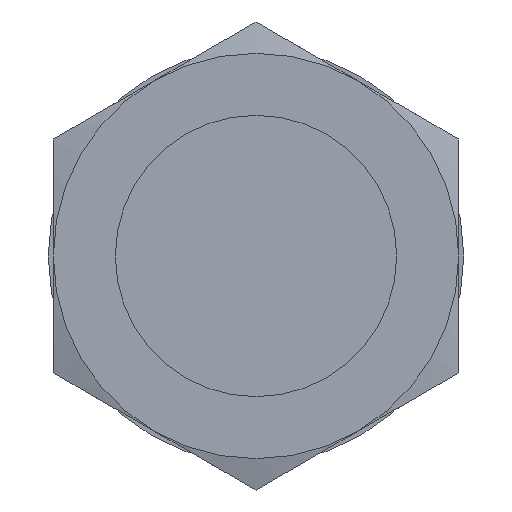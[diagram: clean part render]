
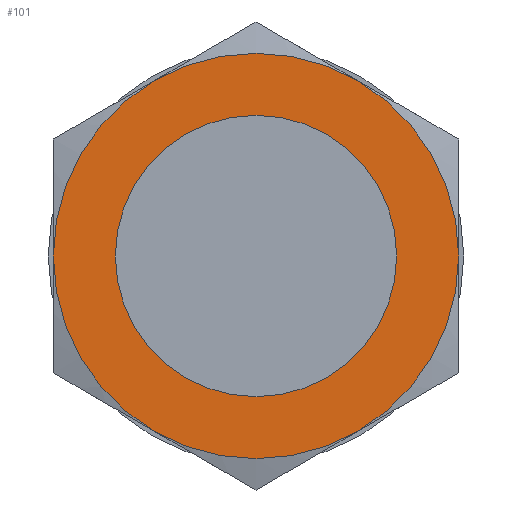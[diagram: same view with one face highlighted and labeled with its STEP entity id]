
A CAD part, front view. The second image highlights one B-rep face of the part: STEP entity #101.
In plain terms, the highlighted planar face has unit normal (0, -1, 0).
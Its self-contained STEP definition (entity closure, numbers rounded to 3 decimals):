
#101 = ADVANCED_FACE( '', ( #165, #166 ), #167, .T. );
#165 = FACE_OUTER_BOUND( '', #244, .T. );
#166 = FACE_BOUND( '', #245, .T. );
#167 = PLANE( '', #246 );
#244 = EDGE_LOOP( '', ( #453, #454, #455, #456, #457, #458 ) );
#245 = EDGE_LOOP( '', ( #459, #460 ) );
#246 = AXIS2_PLACEMENT_3D( '', #461, #462, #463 );
#453 = ORIENTED_EDGE( '', *, *, #590, .F. );
#454 = ORIENTED_EDGE( '', *, *, #591, .F. );
#455 = ORIENTED_EDGE( '', *, *, #592, .F. );
#456 = ORIENTED_EDGE( '', *, *, #593, .F. );
#457 = ORIENTED_EDGE( '', *, *, #594, .F. );
#458 = ORIENTED_EDGE( '', *, *, #595, .F. );
#459 = ORIENTED_EDGE( '', *, *, #559, .T. );
#460 = ORIENTED_EDGE( '', *, *, #600, .T. );
#461 = CARTESIAN_POINT( '', ( 10.166, 5.8, 0. ) );
#462 = DIRECTION( '', ( 0., -1., 0. ) );
#463 = DIRECTION( '', ( -1., 0., 0. ) );
#559 = EDGE_CURVE( '', #655, #659, #661, .T. );
#590 = EDGE_CURVE( '', #698, #690, #712, .T. );
#591 = EDGE_CURVE( '', #706, #698, #713, .T. );
#592 = EDGE_CURVE( '', #663, #706, #714, .T. );
#593 = EDGE_CURVE( '', #685, #663, #715, .T. );
#594 = EDGE_CURVE( '', #675, #685, #716, .T. );
#595 = EDGE_CURVE( '', #690, #675, #717, .T. );
#600 = EDGE_CURVE( '', #659, #655, #722, .T. );
#655 = VERTEX_POINT( '', #787 );
#659 = VERTEX_POINT( '', #792 );
#661 = CIRCLE( '', #795, 8.331 );
#663 = VERTEX_POINT( '', #797 );
#675 = VERTEX_POINT( '', #847 );
#685 = VERTEX_POINT( '', #895 );
#690 = VERTEX_POINT( '', #936 );
#698 = VERTEX_POINT( '', #981 );
#706 = VERTEX_POINT( '', #1026 );
#712 = CIRCLE( '', #1068, 12. );
#713 = CIRCLE( '', #1069, 12. );
#714 = CIRCLE( '', #1070, 12. );
#715 = CIRCLE( '', #1071, 12. );
#716 = CIRCLE( '', #1072, 12. );
#717 = CIRCLE( '', #1073, 12. );
#722 = CIRCLE( '', #1078, 8.331 );
#787 = CARTESIAN_POINT( '', ( 8.331, 5.8, 0. ) );
#792 = CARTESIAN_POINT( '', ( -8.331, 5.8, 0. ) );
#795 = AXIS2_PLACEMENT_3D( '', #1139, #1140, #1141 );
#797 = CARTESIAN_POINT( '', ( -6., 5.8, 10.392 ) );
#847 = CARTESIAN_POINT( '', ( -6., 5.8, -10.392 ) );
#895 = CARTESIAN_POINT( '', ( -12., 5.8, 0. ) );
#936 = CARTESIAN_POINT( '', ( 6., 5.8, -10.392 ) );
#981 = CARTESIAN_POINT( '', ( 12., 5.8, 0. ) );
#1026 = CARTESIAN_POINT( '', ( 6., 5.8, 10.392 ) );
#1068 = AXIS2_PLACEMENT_3D( '', #1148, #1149, #1150 );
#1069 = AXIS2_PLACEMENT_3D( '', #1151, #1152, #1153 );
#1070 = AXIS2_PLACEMENT_3D( '', #1154, #1155, #1156 );
#1071 = AXIS2_PLACEMENT_3D( '', #1157, #1158, #1159 );
#1072 = AXIS2_PLACEMENT_3D( '', #1160, #1161, #1162 );
#1073 = AXIS2_PLACEMENT_3D( '', #1163, #1164, #1165 );
#1078 = AXIS2_PLACEMENT_3D( '', #1178, #1179, #1180 );
#1139 = CARTESIAN_POINT( '', ( 0., 5.8, 0. ) );
#1140 = DIRECTION( '', ( 0., 1., 0. ) );
#1141 = DIRECTION( '', ( 1., 0., 0. ) );
#1148 = CARTESIAN_POINT( '', ( 0., 5.8, 0. ) );
#1149 = DIRECTION( '', ( 0., 1., 0. ) );
#1150 = DIRECTION( '', ( 1., 0., 0. ) );
#1151 = CARTESIAN_POINT( '', ( 0., 5.8, 0. ) );
#1152 = DIRECTION( '', ( 0., 1., 0. ) );
#1153 = DIRECTION( '', ( 1., 0., 0. ) );
#1154 = CARTESIAN_POINT( '', ( 0., 5.8, 0. ) );
#1155 = DIRECTION( '', ( 0., 1., 0. ) );
#1156 = DIRECTION( '', ( 1., 0., 0. ) );
#1157 = CARTESIAN_POINT( '', ( 0., 5.8, 0. ) );
#1158 = DIRECTION( '', ( 0., 1., 0. ) );
#1159 = DIRECTION( '', ( 1., 0., 0. ) );
#1160 = CARTESIAN_POINT( '', ( 0., 5.8, 0. ) );
#1161 = DIRECTION( '', ( 0., 1., 0. ) );
#1162 = DIRECTION( '', ( 1., 0., 0. ) );
#1163 = CARTESIAN_POINT( '', ( 0., 5.8, 0. ) );
#1164 = DIRECTION( '', ( 0., 1., 0. ) );
#1165 = DIRECTION( '', ( 1., 0., 0. ) );
#1178 = CARTESIAN_POINT( '', ( 0., 5.8, 0. ) );
#1179 = DIRECTION( '', ( 0., 1., 0. ) );
#1180 = DIRECTION( '', ( 1., 0., 0. ) );
